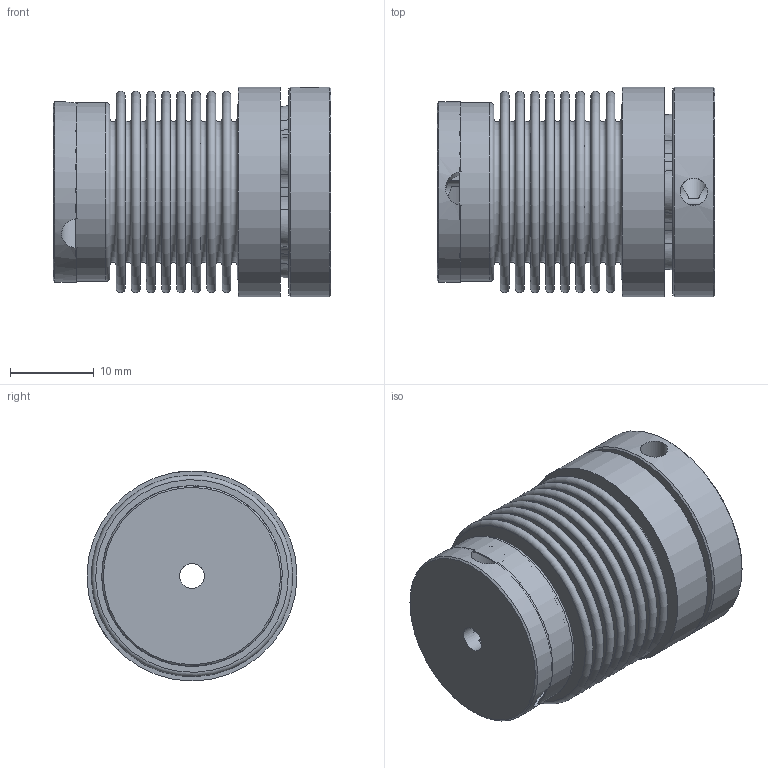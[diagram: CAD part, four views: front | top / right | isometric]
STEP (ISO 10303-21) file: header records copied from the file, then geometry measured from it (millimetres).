
FILE_DESCRIPTION( ( 'KBE1/14 - N7H8 - N14H7 - 98 Sh' ), '1' );
FILE_NAME( 'K:/Konstruktion/Fertigungszeichnungen/Metallbalgkupplung/KB1P/20/KB1P-20-33.stp', '14.12.2015', ( 'KBK-Antriebstechnik' ), ( 'KBK-Antriebstechnik' ), 'PSStep 16.0.42', 'Solid Edge St6', ' ' );
FILE_SCHEMA( ( 'AUTOMOTIVE_DESIGN { 1 0 10303 214 1 1 1 1 }' ) );
Length unit declared in the file: millimetre
Products named in the file (5): Assem1; Stecknabe KB1P-20; Balgaufnahme KB2P-20 für Step; BM20_Standard_0; MN20_Standard_2
Assembly tree (4 placements, depth 2):
  Assem1
    Stecknabe KB1P-20
    Balgaufnahme KB2P-20 für Step
    BM20_Standard_0
    MN20_Standard_2
Bounding box: 33.05 x 25 x 25 mm (x, y, z)
Volume: 7696 mm3; surface area: 14615.2 mm2
Topology: 4 solids, 4 shells, 157 faces, 345 edges, 227 vertices
Faces by surface type: cone 56, plane 49, torus 38, cylinder 14
Full cylindrical faces by diameter (mm): 3 x2, 3.242 x2, 4 x2, 21 x3, 21.3 x2, 21.5 x1, 25 x2
Entity records: 5788 total; most frequent: CARTESIAN_POINT 1058, DIRECTION 780, ORIENTED_EDGE 544, AXIS2_PLACEMENT_3D 364, EDGE_CURVE 272, EDGE_LOOP 264, VERTEX_POINT 230, FACE_OUTER_BOUND 209
